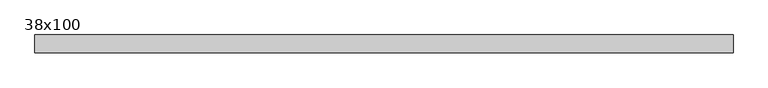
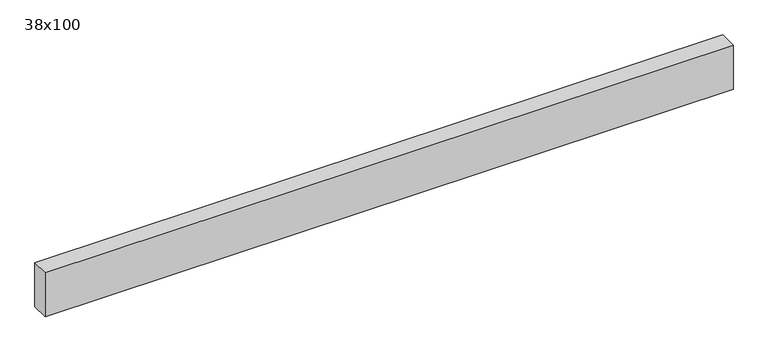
"""IFC4 building model written with IfcOpenShell, lengths in millimetres: beam geometry, Poutre - Bois de construction de dimensions courantes : 38x100."""

from ifc_helpers import new_model, si_unit, frame, origin, place, context, project, spatial, polyline, outline, extrude, source, transform, mapped, element, save


def beam_38x100_f9fc967a(model_context):
    return source(origin(), model_context, "Body", "SweptSolid", [
        extrude(outline(polyline([(688.5, 19.05), (688.5, -19.05), (-787.5, -19.05), (-787.5, 19.05), (688.5, 19.05)])), frame((0.0, 0.0, -50.0), z_axis=(0.0, 0.0, 1.0), x_axis=(1.0, 0.0, 0.0)), (0.0, 0.0, 1.0), 100.0),
    ])


if __name__ == "__main__":
    model = new_model("IFC4")
    model_context = context("Model", 3, world=origin())
    ifc_project = project(units=[si_unit("LENGTHUNIT", "METRE", prefix="MILLI")], contexts=[model_context])
    site = spatial("IfcSite", under=ifc_project)
    building = spatial("IfcBuilding", under=site)
    placement = place(None, origin())
    beam_38x100_shape = beam_38x100_f9fc967a(model_context)
    element("IfcBeam", 1, ObjectType="Poutre - Bois de construction de dimensions courantes : 38x100", at=placement, inside=building, context=model_context, shape_type="MappedRepresentation", body=[
        mapped(beam_38x100_shape, transform((0.0, 0.0, 0.0), x_axis=(1.0, 0.0, 0.0), y_axis=(0.0, 1.0, 0.0), z_axis=(0.0, 0.0, 1.0))),
    ])
    save(model, "model.ifc")
